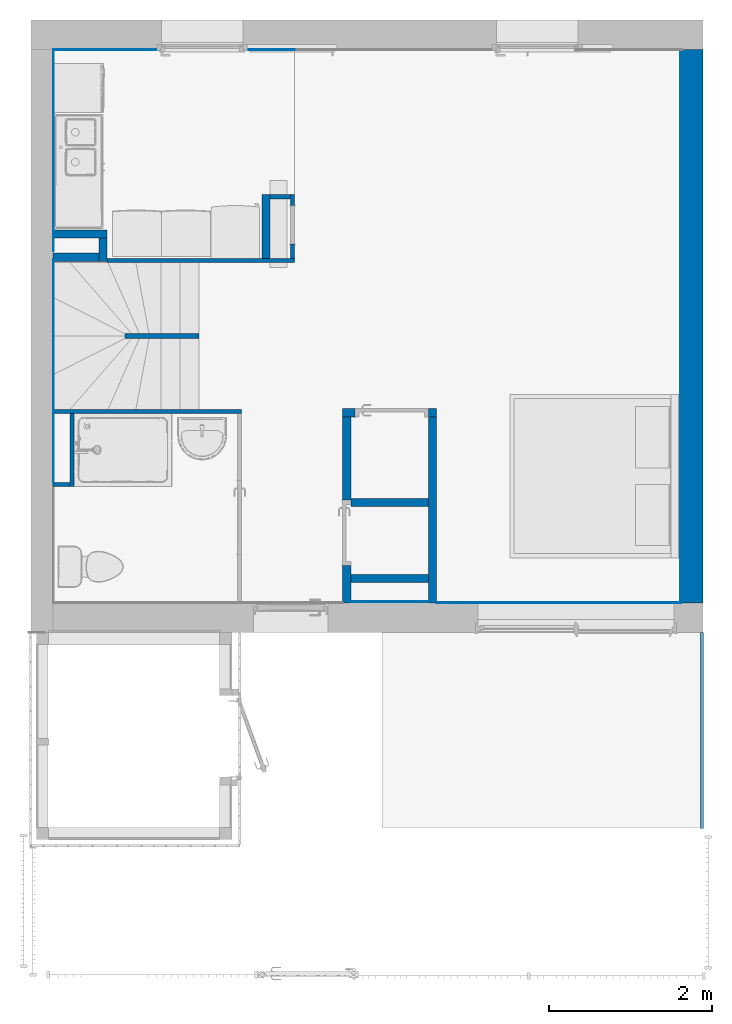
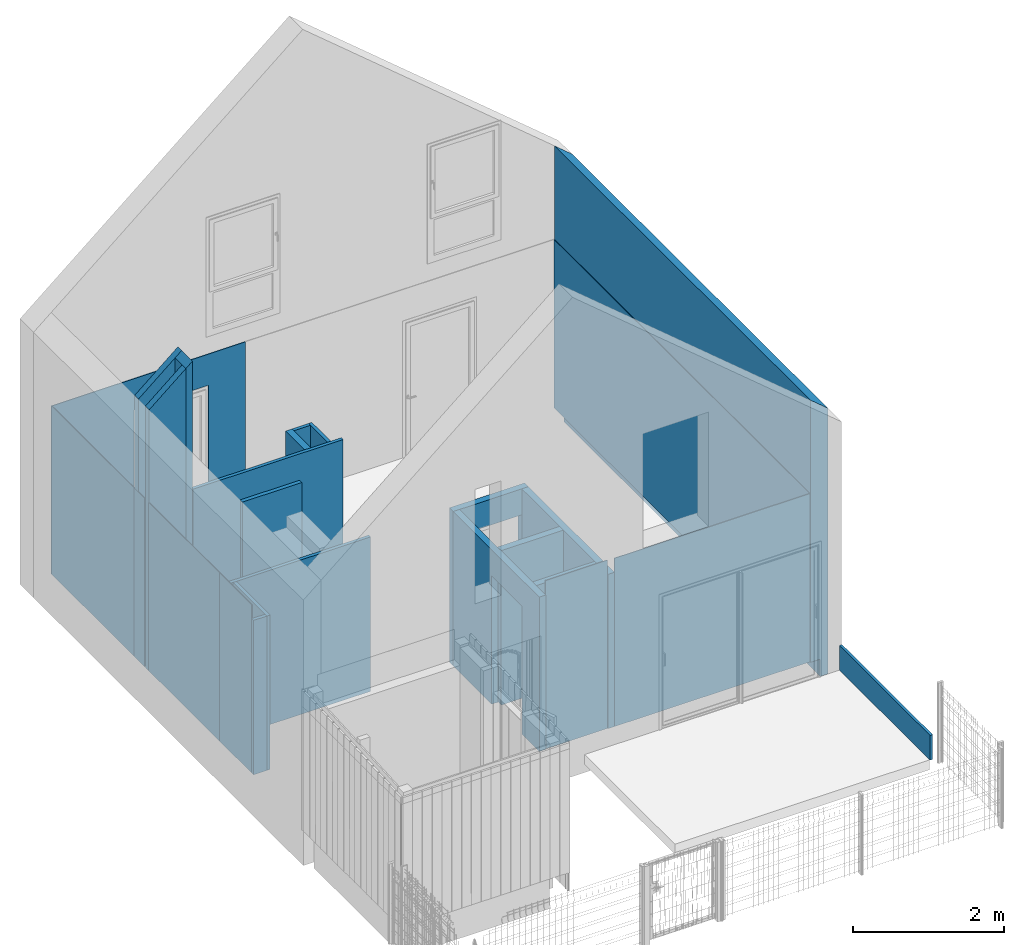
# One storey, part 68 of 81: 26 walls, 4 openings.
"""IFC2X3 building model written with IfcOpenShell, lengths in metres."""

from ifc_helpers import new_model, entity, si_unit, converted_unit, derived_unit, direction, frame, frame_2d, origin, place, context, subcontext, project, spatial, polyline, rectangle, extrude, clip, bounded_halfspace, material, layer, layer_set, layer_usage, type_object, element, save


model = new_model("IFC2X3")

# Units and contexts
model_context = context("Model", 3, precision=1e-05, world=origin(), true_north=direction((6.12303176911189e-17, 1.0)))
body_context = subcontext(model_context, "Body", "Model", "MODEL_VIEW")
ifc_project = project(units=[si_unit("LENGTHUNIT", "METRE"), si_unit("AREAUNIT", "SQUARE_METRE"), si_unit("VOLUMEUNIT", "CUBIC_METRE"), converted_unit("PLANEANGLEUNIT", "DEGREE", entity("IfcRatioMeasure", 0.0174532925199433), si_unit("PLANEANGLEUNIT", "RADIAN"), dimensions=[0, 0, 0, 0, 0, 0, 0]), si_unit("MASSUNIT", "GRAM", prefix="KILO"), derived_unit("MASSDENSITYUNIT", [(si_unit("MASSUNIT", "GRAM", prefix="KILO"), 1), (si_unit("LENGTHUNIT", "METRE"), -3)]), derived_unit("MOMENTOFINERTIAUNIT", [(si_unit("LENGTHUNIT", "METRE"), 4)]), si_unit("TIMEUNIT", "SECOND"), si_unit("FREQUENCYUNIT", "HERTZ"), si_unit("THERMODYNAMICTEMPERATUREUNIT", "DEGREE_CELSIUS"), derived_unit("THERMALTRANSMITTANCEUNIT", [(si_unit("MASSUNIT", "GRAM", prefix="KILO"), 1), (si_unit("THERMODYNAMICTEMPERATUREUNIT", "KELVIN"), -1), (si_unit("TIMEUNIT", "SECOND"), -3)]), derived_unit("VOLUMETRICFLOWRATEUNIT", [(si_unit("LENGTHUNIT", "METRE"), 3), (si_unit("TIMEUNIT", "SECOND"), -1)]), si_unit("ELECTRICCURRENTUNIT", "AMPERE"), si_unit("ELECTRICVOLTAGEUNIT", "VOLT"), si_unit("POWERUNIT", "WATT"), si_unit("FORCEUNIT", "NEWTON", prefix="KILO"), si_unit("ILLUMINANCEUNIT", "LUX"), si_unit("LUMINOUSFLUXUNIT", "LUMEN"), si_unit("LUMINOUSINTENSITYUNIT", "CANDELA"), derived_unit("USERDEFINED", [(si_unit("MASSUNIT", "GRAM", prefix="KILO"), -1), (si_unit("LENGTHUNIT", "METRE"), -2), (si_unit("TIMEUNIT", "SECOND"), 3), (si_unit("LUMINOUSFLUXUNIT", "LUMEN"), 1)]), derived_unit("LINEARVELOCITYUNIT", [(si_unit("LENGTHUNIT", "METRE"), 1), (si_unit("TIMEUNIT", "SECOND"), -1)]), si_unit("PRESSUREUNIT", "PASCAL"), derived_unit("USERDEFINED", [(si_unit("LENGTHUNIT", "METRE"), -2), (si_unit("MASSUNIT", "GRAM", prefix="KILO"), 1), (si_unit("TIMEUNIT", "SECOND"), -2)]), derived_unit("LINEARFORCEUNIT", [(si_unit("MASSUNIT", "GRAM", prefix="KILO"), 1), (si_unit("LENGTHUNIT", "METRE"), 1), (si_unit("TIMEUNIT", "SECOND"), -2), (si_unit("LENGTHUNIT", "METRE"), -1)]), derived_unit("PLANARFORCEUNIT", [(si_unit("MASSUNIT", "GRAM", prefix="KILO"), 1), (si_unit("LENGTHUNIT", "METRE"), 1), (si_unit("TIMEUNIT", "SECOND"), -2), (si_unit("LENGTHUNIT", "METRE"), -2)])], contexts=[model_context])

# Site, building, storey
site_placement = place(None, origin())
site = spatial("IfcSite", under=ifc_project, at=site_placement, Name="Surface", CompositionType="ELEMENT")
building_placement = place(site_placement, origin())
building = spatial("IfcBuilding", under=site, at=building_placement, CompositionType="ELEMENT")
storey_placement = place(building_placement, origin())
storey = spatial("IfcBuildingStorey", under=building, at=storey_placement, Name="01 RDC", CompositionType="ELEMENT", Elevation=-1.94916083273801e-14)

# Walls
ifc_material_1 = material(Name="Maçonnerie - Enduit Blanc")
ifc_layer_1 = layer(ifc_material_1, 0.02)
ifc_material_2 = material(Name="Blocs béton manufacturés")
ifc_layer_2 = layer(ifc_material_2, 0.2)
ifc_material_3 = material(Name="Maçonnerie - Isolant")
ifc_layer_3 = layer(ifc_material_3, 0.04)
ifc_material_4 = material(Name="Placoplâtre de gypse")
ifc_layer_4 = layer(ifc_material_4, 0.01)
ifc_layer_set_1 = layer_set([ifc_layer_1, ifc_layer_2, ifc_layer_3, ifc_layer_4], Name="Mur de base:Ext. Parpaing 20 + Isolant 5 + BA10")
ifc_layer_usage_1 = layer_usage(ifc_layer_set_1, "AXIS2", "NEGATIVE", 0.135)
wall_type_1 = type_object("IfcWallType", Name="Mur de base:Ext. Parpaing 20 + Isolant 5 + BA10", PredefinedType="STANDARD", material=ifc_layer_set_1)
wall_1_placement = place(storey_placement, frame((13.5615615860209, 3.44303904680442, -0.29), z_axis=(0.0, 0.0, 1.0), x_axis=(0.0, -1.0, 0.0)))
element("IfcWallStandardCase", 1, at=wall_1_placement, inside=storey, type_object=wall_type_1, material=ifc_layer_usage_1, Name="Mur de base:Ext. Parpaing 20 + Isolant 5 + BA10", ObjectType="Mur de base:Ext. Parpaing 20 + Isolant 5 + BA10", context=body_context, shape_type="Clipping", body=[
    clip(clip(clip(extrude(rectangle(XDim=6.779, YDim=0.269999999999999, at=frame_2d((3.3895, -3.33066907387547e-16), x_axis=(-1.0, 0.0))), origin(), (0.0, 0.0, 1.0), 4.51655690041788), bounded_halfspace(frame((0.0, -0.135000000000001, 4.51655690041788), z_axis=(0.0, 0.642787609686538, 0.766044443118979), x_axis=(-1.0, 0.0, 0.0)), False, frame((0.0, -0.135000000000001, 4.51655690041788)), polyline([(0.0, 0.0), (6.779, 0.0), (6.779, 0.269999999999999), (0.0, 0.269999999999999), (0.0, 0.0)]))), bounded_halfspace(frame((0.0, 0.0150000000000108, 0.28)), True, frame((0.0, 0.0150000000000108, 0.28)), polyline([(0.0, 0.0), (0.0, -0.150000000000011), (6.779, -0.150000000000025), (6.779, 0.0), (0.0, 0.0)]))), bounded_halfspace(frame((6.779, 0.0150000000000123, 0.28), z_axis=(0.0, 1.0, 0.0), x_axis=(0.0, 0.0, 1.0)), True, frame((6.779, 0.0150000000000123, 0.28), z_axis=(0.0, 1.0, 0.0), x_axis=(0.0, 0.0, 1.0)), polyline([(0.0, 0.0), (-0.28, 0.0), (-0.28, -6.779), (0.0, -6.779), (0.0, 0.0)]))),
])
ifc_material_5 = material(Name="Isolant - laine minérale")
ifc_layer_5 = layer(ifc_material_5, 0.1)
ifc_layer_set_2 = layer_set([ifc_layer_5], Name="Mur de base:Int. Polyester 100 mm")
ifc_layer_usage_2 = layer_usage(ifc_layer_set_2, "AXIS2", "NEGATIVE", 0.05)
wall_type_2 = type_object("IfcWallType", Name="Mur de base:Int. Polyester 100 mm", PredefinedType="STANDARD", material=ifc_layer_set_2)
wall_2_placement = place(storey_placement, frame((5.73656158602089, 1.18403904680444, 0.0)))
element("IfcWallStandardCase", 2, at=wall_2_placement, inside=storey, type_object=wall_type_2, material=ifc_layer_usage_2, Name="Mur de base:Int. Polyester 100 mm", ObjectType="Mur de base:Int. Polyester 100 mm", context=body_context, shape_type="Clipping", body=[
    clip(extrude(rectangle(XDim=0.659999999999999, YDim=0.1, at=frame_2d((0.33, -4.85722573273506e-17), x_axis=(-1.0, 0.0))), origin(), (0.0, 0.0, 1.0), 4.78036265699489), bounded_halfspace(frame((0.0, -0.05, 4.22655690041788), z_axis=(-0.642787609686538, 0.0, 0.766044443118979), x_axis=(0.0, -1.0, 0.0)), False, frame((0.0, -0.05, 4.22655690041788)), polyline([(0.0, 0.0), (0.559999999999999, 0.0), (0.659999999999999, 0.0), (0.659999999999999, 0.0999999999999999), (0.0, 0.0999999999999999), (0.0, 0.0)]))),
])
ifc_layer_usage_3 = layer_usage(ifc_layer_set_2, "AXIS2", "NEGATIVE", 0.05)
wall_3_placement = place(storey_placement, frame((6.34656158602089, 1.13403904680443, 0.0), z_axis=(0.0, 0.0, 1.0), x_axis=(0.0, -1.0, 0.0)))
element("IfcWallStandardCase", 3, at=wall_3_placement, inside=storey, type_object=wall_type_2, material=ifc_layer_usage_3, Name="Mur de base:Int. Polyester 100 mm", ObjectType="Mur de base:Int. Polyester 100 mm", context=body_context, shape_type="Clipping", body=[
    clip(extrude(rectangle(XDim=0.28499999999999, YDim=0.0999999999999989, at=frame_2d((0.142499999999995, -1.80411241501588e-16), x_axis=(-1.0, 0.0))), origin(), (0.0, 0.0, 1.0), 4.78036265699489), bounded_halfspace(frame((0.0, -0.0500000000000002, 4.69645269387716), z_axis=(0.0, -0.642787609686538, 0.766044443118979), x_axis=(1.0, 0.0, 0.0)), False, frame((0.0, -0.0500000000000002, 4.69645269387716)), polyline([(0.0, 0.0), (0.18499999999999, 0.0), (0.28499999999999, 0.0), (0.28499999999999, 0.0999999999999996), (0.0, 0.1), (0.0, 0.0)]))),
])
ifc_layer_usage_4 = layer_usage(ifc_layer_set_2, "AXIS2", "NEGATIVE", 0.05)
wall_4_placement = place(storey_placement, frame((6.29656158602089, 0.899039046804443, 0.0), z_axis=(0.0, 0.0, 1.0), x_axis=(-1.0, 0.0, 0.0)))
element("IfcWallStandardCase", 4, at=wall_4_placement, inside=storey, type_object=wall_type_2, material=ifc_layer_usage_4, Name="Mur de base:Int. Polyester 100 mm", ObjectType="Mur de base:Int. Polyester 100 mm", context=body_context, shape_type="Clipping", body=[
    clip(extrude(rectangle(XDim=0.559999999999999, YDim=0.1, at=frame_2d((0.28, -5.55111512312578e-17), x_axis=(-1.0, 0.0))), origin(), (0.0, 0.0, 1.0), 4.69645269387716), bounded_halfspace(frame((0.0, -0.05, 4.69645269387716), z_axis=(0.642787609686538, 0.0, 0.766044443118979), x_axis=(0.0, 1.0, 0.0)), False, frame((0.0, -0.05, 4.69645269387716)), polyline([(0.0, 0.0), (0.559999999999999, 0.0), (0.559999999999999, 0.0999999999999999), (0.0, 0.1), (0.0, 0.0)]))),
])
ifc_layer_usage_5 = layer_usage(ifc_layer_set_2, "AXIS2", "NEGATIVE", 0.05)
wall_5_placement = place(storey_placement, frame((8.34156158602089, 1.66403904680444, 0.0), z_axis=(0.0, 0.0, 1.0), x_axis=(0.0, -1.0, 0.0)))
element("IfcWallStandardCase", 5, at=wall_5_placement, inside=storey, type_object=wall_type_2, material=ifc_layer_usage_5, Name="Mur de base:Int. Polyester 100 mm", ObjectType="Mur de base:Int. Polyester 100 mm", context=body_context, shape_type="Clipping", body=[
    clip(extrude(rectangle(XDim=0.779999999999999, YDim=0.100000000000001, at=frame_2d((0.39, 9.0205620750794e-17), x_axis=(-1.0, 0.0))), origin(), (0.0, 0.0, 1.0), 2.495), bounded_halfspace(frame((0.0, -0.05, 2.495), z_axis=(0.0, 0.0, -1.0), x_axis=(-1.0, 0.0, 0.0)), True, frame((0.0, -0.05, 2.495)), polyline([(0.0, 0.0), (0.779999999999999, 0.0), (0.779999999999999, 0.1), (0.0, 0.1), (0.0, 0.0)]))),
])

# Wall, opening
ifc_layer_usage_6 = layer_usage(ifc_layer_set_2, "AXIS2", "NEGATIVE", 0.05)
wall_6_placement = place(storey_placement, frame((10.4315615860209, -1.00596095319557, 0.0), z_axis=(0.0, 0.0, 1.0), x_axis=(-1.0, 0.0, 0.0)))
wall_6 = element("IfcWallStandardCase", 6, at=wall_6_placement, inside=storey, type_object=wall_type_2, material=ifc_layer_usage_6, Name="Mur de base:Int. Polyester 100 mm", ObjectType="Mur de base:Int. Polyester 100 mm", context=body_context, shape_type="Clipping", body=[
    clip(extrude(rectangle(XDim=1.15, YDim=0.1, at=frame_2d((0.575000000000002, -1.04083408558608e-17), x_axis=(-1.0, 0.0))), origin(), (0.0, 0.0, 1.0), 2.495), bounded_halfspace(frame((0.0, -0.05, 2.495), z_axis=(0.0, 0.0, -1.0), x_axis=(0.0, -1.0, 0.0)), True, frame((0.0, -0.05, 2.495)), polyline([(0.0, 0.0), (1.15, 0.0), (1.15, 0.0999999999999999), (1.05, 0.1), (0.100000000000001, 0.0999999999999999), (0.0, 0.1), (0.0, 0.0)]))),
])
opening_1_placement = place(wall_6_placement, frame((1.0, 0.0499999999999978, 0.0)))
element("IfcOpeningElement", 7, at=opening_1_placement, cuts=wall_6, Name="Int. Simple:PP (0.83m x 2.04m):1", ObjectType="Opening", context=body_context, shape_type="SweptSolid", body=[
    extrude(rectangle(XDim=2.075, YDim=0.9, at=frame_2d((1.0375, 0.45), x_axis=(1.0, 0.0))), frame((0.0, 0.0, 0.0), z_axis=(0.0, -1.0, 0.0), x_axis=(0.0, 0.0, 1.0)), (0.0, 0.0, 1.0), 0.1),
])

ifc_layer_usage_7 = layer_usage(ifc_layer_set_2, "AXIS2", "NEGATIVE", 0.05)
wall_7_placement = place(storey_placement, frame((9.33156158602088, -1.05596095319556, 0.0), z_axis=(0.0, 0.0, 1.0), x_axis=(0.0, -1.0, 0.0)))
wall_7 = element("IfcWallStandardCase", 8, at=wall_7_placement, inside=storey, type_object=wall_type_2, material=ifc_layer_usage_7, Name="Mur de base:Int. Polyester 100 mm", ObjectType="Mur de base:Int. Polyester 100 mm", context=body_context, shape_type="Clipping", body=[
    clip(extrude(rectangle(XDim=2.28, YDim=0.0999999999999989, at=frame_2d((1.14, -3.43475248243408e-16), x_axis=(-1.0, 0.0))), origin(), (0.0, 0.0, 1.0), 2.495), bounded_halfspace(frame((0.0, -0.050000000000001, 2.495), z_axis=(0.0, 0.0, -1.0), x_axis=(-1.0, 0.0, 0.0)), True, frame((0.0, -0.050000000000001, 2.495)), polyline([(0.0, 0.0), (2.28, 0.0), (2.28, 0.0999999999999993), (2.03, 0.1), (1.93, 0.0999999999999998), (1.1, 0.0999999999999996), (1.0, 0.0999999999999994), (0.0, 0.1), (0.0, 0.0)]))),
])
opening_2_placement = place(wall_7_placement, frame((1.82, 0.0499999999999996, 0.0)))
element("IfcOpeningElement", 9, at=opening_2_placement, cuts=wall_7, Name="Int. Simple:PP (0.73m x 2.04m):1", ObjectType="Opening", context=body_context, shape_type="SweptSolid", body=[
    extrude(rectangle(XDim=2.075, YDim=0.799999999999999, at=frame_2d((1.0375, 0.4), x_axis=(1.0, 0.0))), frame((0.0, 0.0, 0.0), z_axis=(0.0, -1.0, 0.0), x_axis=(0.0, 0.0, 1.0)), (0.0, 0.0, 1.0), 0.1),
])

# Walls
ifc_layer_usage_8 = layer_usage(ifc_layer_set_2, "AXIS2", "NEGATIVE", 0.05)
wall_8_placement = place(storey_placement, frame((9.38156158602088, -3.03596095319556, 0.0)))
element("IfcWallStandardCase", 10, at=wall_8_placement, inside=storey, type_object=wall_type_2, material=ifc_layer_usage_8, Name="Mur de base:Int. Polyester 100 mm", ObjectType="Mur de base:Int. Polyester 100 mm", context=body_context, shape_type="Clipping", body=[
    clip(extrude(rectangle(XDim=0.950000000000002, YDim=0.1, at=frame_2d((0.475000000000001, 1.38777878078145e-17), x_axis=(-1.0, 0.0))), origin(), (0.0, 0.0, 1.0), 2.495), bounded_halfspace(frame((0.0, -0.05, 2.495), z_axis=(0.0, 0.0, -1.0), x_axis=(0.0, 1.0, 0.0)), True, frame((0.0, -0.05, 2.495)), polyline([(0.0, 0.0), (0.950000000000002, 0.0), (0.950000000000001, 0.1), (0.0, 0.1), (0.0, 0.0)]))),
])
ifc_layer_usage_9 = layer_usage(ifc_layer_set_2, "AXIS2", "NEGATIVE", 0.05)
wall_9_placement = place(storey_placement, frame((9.38156158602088, -2.10596095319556, 0.0)))
element("IfcWallStandardCase", 11, at=wall_9_placement, inside=storey, type_object=wall_type_2, material=ifc_layer_usage_9, Name="Mur de base:Int. Polyester 100 mm", ObjectType="Mur de base:Int. Polyester 100 mm", context=body_context, shape_type="Clipping", body=[
    clip(extrude(rectangle(XDim=0.950000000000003, YDim=0.1, at=frame_2d((0.475000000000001, 3.12250225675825e-17), x_axis=(-1.0, 0.0))), origin(), (0.0, 0.0, 1.0), 2.495), bounded_halfspace(frame((0.0, -0.05, 2.495), z_axis=(0.0, 0.0, -1.0), x_axis=(0.0, 1.0, 0.0)), True, frame((0.0, -0.05, 2.495)), polyline([(0.0, 0.0), (0.950000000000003, 0.0), (0.950000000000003, 0.1), (0.0, 0.1), (0.0, 0.0)]))),
])
ifc_layer_usage_10 = layer_usage(ifc_layer_set_2, "AXIS2", "NEGATIVE", 0.05)
wall_10_placement = place(storey_placement, frame((10.3815615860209, -3.33596095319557, 0.0), z_axis=(0.0, 0.0, 1.0), x_axis=(0.0, 1.0, 0.0)))
element("IfcWallStandardCase", 12, at=wall_10_placement, inside=storey, type_object=wall_type_2, material=ifc_layer_usage_10, Name="Mur de base:Int. Polyester 100 mm", ObjectType="Mur de base:Int. Polyester 100 mm", context=body_context, shape_type="Clipping", body=[
    clip(extrude(rectangle(XDim=2.28, YDim=0.0999999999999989, at=frame_2d((1.14, -3.33066907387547e-16), x_axis=(-1.0, 0.0))), origin(), (0.0, 0.0, 1.0), 2.495), bounded_halfspace(frame((0.0, -0.0500000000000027, 2.495), z_axis=(0.0, 0.0, -1.0), x_axis=(1.0, 0.0, 0.0)), True, frame((0.0, -0.0500000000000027, 2.495)), polyline([(0.0, 0.0), (2.28, 0.0), (2.28, 0.1), (1.28, 0.100000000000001), (1.18, 0.100000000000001), (0.35, 0.100000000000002), (0.25, 0.100000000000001), (0.0, 0.100000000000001), (0.0, 0.0)]))),
])
ifc_material_6 = material(Name="Mur par défaut")
ifc_layer_6 = layer(ifc_material_6, 0.05)
ifc_layer_set_3 = layer_set([ifc_layer_6], Name="Mur de base:Int. Plâtre 50 mm")
ifc_layer_usage_11 = layer_usage(ifc_layer_set_3, "AXIS2", "NEGATIVE", 0.025)
wall_type_3 = type_object("IfcWallType", Name="Mur de base:Int. Plâtre 50 mm", PredefinedType="STANDARD", material=ifc_layer_set_3)
wall_11_placement = place(storey_placement, frame((6.39656158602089, 0.859039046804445, 0.0)))
element("IfcWallStandardCase", 13, at=wall_11_placement, inside=storey, type_object=wall_type_3, material=ifc_layer_usage_11, Name="Mur de base:Int. Plâtre 50 mm", ObjectType="Mur de base:Int. Plâtre 50 mm", context=body_context, shape_type="SweptSolid", body=[
    extrude(rectangle(XDim=2.295, YDim=0.05, at=frame_2d((1.1475, -2.94902990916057e-17), x_axis=(-1.0, 0.0))), origin(), (0.0, 0.0, 1.0), 2.72000000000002),
])

# Wall, opening
ifc_layer_usage_12 = layer_usage(ifc_layer_set_3, "AXIS2", "NEGATIVE", 0.025)
wall_12_placement = place(storey_placement, frame((8.66656158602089, 0.884039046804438, 0.0), z_axis=(0.0, 0.0, 1.0), x_axis=(0.0, 1.0, 0.0)))
wall_12 = element("IfcWallStandardCase", 14, at=wall_12_placement, inside=storey, type_object=wall_type_3, material=ifc_layer_usage_12, Name="Mur de base:Int. Plâtre 50 mm", ObjectType="Mur de base:Int. Plâtre 50 mm", context=body_context, shape_type="Clipping", body=[
    clip(extrude(rectangle(XDim=0.78, YDim=0.0499999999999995, at=frame_2d((0.39, 9.8879238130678e-17), x_axis=(-1.0, 0.0))), origin(), (0.0, 0.0, 1.0), 2.495), bounded_halfspace(frame((0.0, -0.0250000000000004, 2.495), z_axis=(0.0, 0.0, -1.0), x_axis=(1.0, 0.0, 0.0)), True, frame((0.0, -0.0250000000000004, 2.495)), polyline([(0.0, 0.0), (0.78, 0.0), (0.78, 0.0500000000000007), (0.73, 0.0500000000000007), (0.0, 0.0500000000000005), (0.0, 0.0)]))),
])
opening_3_placement = place(wall_12_placement, frame((0.64499999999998, 0.0250000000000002, 0.69999999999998)))
element("IfcOpeningElement", 15, at=opening_3_placement, cuts=wall_12, Name="Int. Simple:PP (0.60 m x 0.8 m):1", ObjectType="Opening", context=body_context, shape_type="SweptSolid", body=[
    extrude(rectangle(XDim=0.835000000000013, YDim=0.469999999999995, at=frame_2d((0.417500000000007, 0.234999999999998), x_axis=(1.0, 0.0))), frame((0.0, 0.0, 0.0), z_axis=(0.0, -1.0, 0.0), x_axis=(0.0, 0.0, 1.0)), (0.0, 0.0, 1.0), 0.05),
])

# Walls
ifc_layer_usage_13 = layer_usage(ifc_layer_set_3, "AXIS2", "NEGATIVE", 0.025)
wall_13_placement = place(storey_placement, frame((8.64156158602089, 1.63903904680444, 0.0), z_axis=(0.0, 0.0, 1.0), x_axis=(-1.0, 0.0, 0.0)))
element("IfcWallStandardCase", 16, at=wall_13_placement, inside=storey, type_object=wall_type_3, material=ifc_layer_usage_13, Name="Mur de base:Int. Plâtre 50 mm", ObjectType="Mur de base:Int. Plâtre 50 mm", context=body_context, shape_type="Clipping", body=[
    clip(extrude(rectangle(XDim=0.250000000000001, YDim=0.05, at=frame_2d((0.125, 0.0), x_axis=(-1.0, 0.0))), origin(), (0.0, 0.0, 1.0), 2.495), bounded_halfspace(frame((0.0, -0.025, 2.495), z_axis=(0.0, 0.0, -1.0), x_axis=(0.0, -1.0, 0.0)), True, frame((0.0, -0.025, 2.495)), polyline([(0.0, 0.0), (0.250000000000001, 0.0), (0.250000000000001, 0.05), (0.0, 0.05), (0.0, 0.0)]))),
])
ifc_layer_usage_14 = layer_usage(ifc_layer_set_3, "AXIS2", "NEGATIVE", 0.025)
wall_14_placement = place(storey_placement, frame((5.96656158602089, -1.01596095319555, 0.0), z_axis=(0.0, 0.0, 1.0), x_axis=(0.0, -1.0, 0.0)))
element("IfcWallStandardCase", 17, at=wall_14_placement, inside=storey, type_object=wall_type_3, material=ifc_layer_usage_14, Name="Mur de base:Int. Plâtre 50 mm", ObjectType="Mur de base:Int. Plâtre 50 mm", context=body_context, shape_type="Clipping", body=[
    clip(extrude(rectangle(XDim=0.895, YDim=0.0499999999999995, at=frame_2d((0.4475, 2.67147415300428e-16), x_axis=(-1.0, 0.0))), origin(), (0.0, 0.0, 1.0), 2.495), bounded_halfspace(frame((0.0, -0.0250000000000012, 2.495), z_axis=(0.0, 0.0, -1.0), x_axis=(-1.0, 0.0, 0.0)), True, frame((0.0, -0.0250000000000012, 2.495)), polyline([(0.0, 0.0), (0.845, 0.0), (0.895, 0.0), (0.895, 0.0500000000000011), (0.0, 0.0500000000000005), (0.0, 0.0)]))),
])
ifc_layer_usage_15 = layer_usage(ifc_layer_set_3, "AXIS2", "NEGATIVE", 0.025)
wall_15_placement = place(storey_placement, frame((5.94156158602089, -1.88596095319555, 0.0), z_axis=(0.0, 0.0, 1.0), x_axis=(-1.0, 0.0, 0.0)))
element("IfcWallStandardCase", 18, at=wall_15_placement, inside=storey, type_object=wall_type_3, material=ifc_layer_usage_15, Name="Mur de base:Int. Plâtre 50 mm", ObjectType="Mur de base:Int. Plâtre 50 mm", context=body_context, shape_type="Clipping", body=[
    clip(extrude(rectangle(XDim=0.205000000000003, YDim=0.05, at=frame_2d((0.102500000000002, -2.94902990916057e-17), x_axis=(-1.0, 0.0))), origin(), (0.0, 0.0, 1.0), 2.495), bounded_halfspace(frame((0.0, -0.025, 2.495), z_axis=(0.0, 0.0, -1.0), x_axis=(0.0, -1.0, 0.0)), True, frame((0.0, -0.025, 2.495)), polyline([(0.0, 0.0), (0.195000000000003, 0.0), (0.205000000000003, 0.0), (0.205000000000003, 0.025), (0.205000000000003, 0.05), (0.195000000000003, 0.05), (0.0, 0.05), (0.0, 0.0)]))),
])
ifc_layer_usage_16 = layer_usage(ifc_layer_set_3, "AXIS2", "NEGATIVE", 0.025)
wall_16_placement = place(storey_placement, frame((5.74656158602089, -0.990960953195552, 0.0)))
element("IfcWallStandardCase", 19, at=wall_16_placement, inside=storey, type_object=wall_type_3, material=ifc_layer_usage_16, Name="Mur de base:Int. Plâtre 50 mm", ObjectType="Mur de base:Int. Plâtre 50 mm", context=body_context, shape_type="Clipping", body=[
    clip(extrude(rectangle(XDim=2.29500000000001, YDim=0.05, at=frame_2d((1.1475, 1.90819582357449e-17), x_axis=(-1.0, 0.0))), origin(), (0.0, 0.0, 1.0), 2.495), bounded_halfspace(frame((0.0, -0.025, 2.495), z_axis=(0.0, 0.0, -1.0), x_axis=(0.0, 1.0, 0.0)), True, frame((0.0, -0.025, 2.495)), polyline([(0.0, 0.0), (0.195000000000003, 0.0), (0.245000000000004, 0.0), (2.24500000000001, 0.0), (2.29500000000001, 0.0), (2.29500000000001, 0.0500000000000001), (1.79, 0.0500000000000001), (0.0, 0.05), (0.0, 0.025), (0.0, 0.0)]))),
])
ifc_layer_7 = layer(ifc_material_6, 0.06)
ifc_layer_set_4 = layer_set([ifc_layer_7], Name="Mur de base:Int. Plâtre 60 mm")
ifc_layer_usage_17 = layer_usage(ifc_layer_set_4, "AXIS2", "NEGATIVE", 0.03)
wall_type_4 = type_object("IfcWallType", Name="Mur de base:Int. Plâtre 60 mm", PredefinedType="STANDARD", material=ifc_layer_set_4)
wall_17_placement = place(storey_placement, frame((6.61656158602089, -0.0670286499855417, 0.0)))
element("IfcWallStandardCase", 20, at=wall_17_placement, inside=storey, type_object=wall_type_4, material=ifc_layer_usage_17, Name="Mur de base:Int. Plâtre 60 mm", ObjectType="Mur de base:Int. Plâtre 60 mm", context=body_context, shape_type="SweptSolid", body=[
    extrude(rectangle(XDim=0.905, YDim=0.06, at=frame_2d((0.4525, -5.20417042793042e-18), x_axis=(-1.0, 0.0))), origin(), (0.0, 0.0, 1.0), 3.0),
])

# Wall, opening
ifc_layer_8 = layer(ifc_material_4, 0.01)
ifc_layer_set_5 = layer_set([ifc_layer_8], Name="Mur de base:Int. Plâtre 10 mm")
ifc_layer_usage_18 = layer_usage(ifc_layer_set_5, "AXIS2", "POSITIVE", -0.005)
wall_type_5 = type_object("IfcWallType", Name="Mur de base:Int. Plâtre 10 mm", PredefinedType="STANDARD", material=ifc_layer_set_5)
wall_18_placement = place(storey_placement, frame((5.7365615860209, 3.43903904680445, 0.0)))
wall_18 = element("IfcWallStandardCase", 21, at=wall_18_placement, inside=storey, type_object=wall_type_5, material=ifc_layer_usage_18, Name="Mur de base:Int. Plâtre 10 mm", ObjectType="Mur de base:Int. Plâtre 10 mm", context=body_context, shape_type="SweptSolid", body=[
    extrude(rectangle(XDim=2.96, YDim=0.00999999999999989, at=frame_2d((1.48, 1.95590071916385e-16), x_axis=(-1.0, 0.0))), origin(), (0.0, 0.0, 1.0), 2.72000000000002),
])
opening_4_placement = place(wall_18_placement, origin())
element("IfcOpeningElement", 22, at=opening_4_placement, cuts=wall_18, Name="Mur de base:Int. Plâtre 10 mm", ObjectType="Opening", context=body_context, shape_type="SweptSolid", body=[
    extrude(rectangle(XDim=2.23516899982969, YDim=1.13332726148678, at=frame_2d((0.0, -5.55111512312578e-16), x_axis=(1.0, 0.0))), frame((1.82866363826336, -0.00499999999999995, 1.09750127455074), z_axis=(0.0, 1.0, 0.0), x_axis=(0.0, 0.0, -1.0)), (0.0, 0.0, 1.0), 0.00999999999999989),
])

# Walls
ifc_layer_usage_19 = layer_usage(ifc_layer_set_5, "AXIS2", "POSITIVE", -0.005)
wall_19_placement = place(storey_placement, frame((13.4215615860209, 3.43403904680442, 0.0), z_axis=(0.0, 0.0, 1.0), x_axis=(0.0, -1.0, 0.0)))
element("IfcWallStandardCase", 23, at=wall_19_placement, inside=storey, type_object=wall_type_5, material=ifc_layer_usage_19, Name="Mur de base:Int. Plâtre 10 mm", ObjectType="Mur de base:Int. Plâtre 10 mm", context=body_context, shape_type="SweptSolid", body=[
    extrude(rectangle(XDim=6.77, YDim=0.0100000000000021, at=frame_2d((3.385, -5.11743425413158e-17), x_axis=(-1.0, 0.0))), origin(), (0.0, 0.0, 1.0), 2.72000000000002),
])
ifc_layer_usage_20 = layer_usage(ifc_layer_set_5, "AXIS2", "POSITIVE", -0.005)
wall_20_placement = place(storey_placement, frame((13.4165615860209, -3.33096095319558, 0.0), z_axis=(0.0, 0.0, 1.0), x_axis=(-1.0, 0.0, 0.0)))
element("IfcWallStandardCase", 24, at=wall_20_placement, inside=storey, type_object=wall_type_5, material=ifc_layer_usage_20, Name="Mur de base:Int. Plâtre 10 mm", ObjectType="Mur de base:Int. Plâtre 10 mm", context=body_context, shape_type="SweptSolid", body=[
    extrude(rectangle(XDim=2.98500000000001, YDim=0.00999999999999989, at=frame_2d((1.4925, -4.0766001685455e-17), x_axis=(-1.0, 0.0))), origin(), (0.0, 0.0, 1.0), 2.72000000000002),
])
ifc_layer_usage_21 = layer_usage(ifc_layer_set_5, "AXIS2", "POSITIVE", -0.005)
wall_21_placement = place(storey_placement, frame((5.74156158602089, 0.969039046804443, 0.0), z_axis=(0.0, 0.0, 1.0), x_axis=(0.0, 1.0, 0.0)))
element("IfcWallStandardCase", 25, at=wall_21_placement, inside=storey, type_object=wall_type_5, material=ifc_layer_usage_21, Name="Mur de base:Int. Plâtre 10 mm", ObjectType="Mur de base:Int. Plâtre 10 mm", context=body_context, shape_type="SweptSolid", body=[
    extrude(rectangle(XDim=0.29, YDim=0.00999999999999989, at=frame_2d((0.145, 0.0), x_axis=(-1.0, 0.0))), origin(), (0.0, 0.0, 1.0), 2.72000000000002),
])
ifc_layer_usage_22 = layer_usage(ifc_layer_set_5, "AXIS2", "POSITIVE", -0.005)
wall_22_placement = place(storey_placement, frame((10.3315615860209, -3.32096095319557, 0.0), z_axis=(0.0, 0.0, 1.0), x_axis=(-1.0, 0.0, 0.0)))
element("IfcWallStandardCase", 26, at=wall_22_placement, inside=storey, type_object=wall_type_5, material=ifc_layer_usage_22, Name="Mur de base:Int. Plâtre 10 mm", ObjectType="Mur de base:Int. Plâtre 10 mm", context=body_context, shape_type="SweptSolid", body=[
    extrude(rectangle(XDim=0.950000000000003, YDim=0.00999999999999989, at=frame_2d((0.475000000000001, 1.97324795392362e-16), x_axis=(-1.0, 0.0))), origin(), (0.0, 0.0, 1.0), 2.72000000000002),
])
ifc_layer_usage_23 = layer_usage(ifc_layer_set_5, "AXIS2", "POSITIVE", -0.005)
wall_23_placement = place(storey_placement, frame((5.74156158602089, 1.23403904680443, 0.0), z_axis=(0.0, 0.0, 1.0), x_axis=(0.0, 1.0, 0.0)))
element("IfcWallStandardCase", 27, at=wall_23_placement, inside=storey, type_object=wall_type_5, material=ifc_layer_usage_23, Name="Mur de base:Int. Plâtre 10 mm", ObjectType="Mur de base:Int. Plâtre 10 mm", context=body_context, shape_type="SweptSolid", body=[
    extrude(rectangle(XDim=2.20000000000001, YDim=0.00999999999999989, at=frame_2d((1.10000000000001, 2.08166817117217e-16), x_axis=(-1.0, 0.0))), origin(), (0.0, 0.0, 1.0), 2.72000000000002),
])
ifc_layer_usage_24 = layer_usage(ifc_layer_set_5, "AXIS2", "POSITIVE", -0.005)
wall_24_placement = place(storey_placement, frame((5.74156158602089, -1.01596095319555, 0.0), z_axis=(0.0, 0.0, 1.0), x_axis=(0.0, 1.0, 0.0)))
element("IfcWallStandardCase", 28, at=wall_24_placement, inside=storey, type_object=wall_type_5, material=ifc_layer_usage_24, Name="Mur de base:Int. Plâtre 10 mm", ObjectType="Mur de base:Int. Plâtre 10 mm", context=body_context, shape_type="SweptSolid", body=[
    extrude(rectangle(XDim=1.88999999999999, YDim=0.00999999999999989, at=frame_2d((0.944999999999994, -1.56992474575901e-16), x_axis=(-1.0, 0.0))), origin(), (0.0, 0.0, 1.0), 2.72000000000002),
])
ifc_layer_usage_25 = layer_usage(ifc_layer_set_5, "AXIS2", "POSITIVE", -0.005)
wall_25_placement = place(storey_placement, frame((5.74156158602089, -1.88596095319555, 0.0), z_axis=(0.0, 0.0, 1.0), x_axis=(0.0, 1.0, 0.0)))
element("IfcWallStandardCase", 29, at=wall_25_placement, inside=storey, type_object=wall_type_5, material=ifc_layer_usage_25, Name="Mur de base:Int. Plâtre 10 mm", ObjectType="Mur de base:Int. Plâtre 10 mm", context=body_context, shape_type="SweptSolid", body=[
    extrude(rectangle(XDim=0.845, YDim=0.00999999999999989, at=frame_2d((0.4475, 1.53523027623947e-16), x_axis=(-1.0, 0.0))), origin(), (0.0, 0.0, 1.0), 2.72000000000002),
])
ifc_material_7 = material(Name="Brique, commune")
ifc_layer_9 = layer(ifc_material_7, 0.04)
ifc_layer_set_6 = layer_set([ifc_layer_9], Name="Mur de base:Ext. Brique 4")
ifc_layer_usage_26 = layer_usage(ifc_layer_set_6, "AXIS2", "POSITIVE", -0.02)
wall_type_6 = type_object("IfcWallType", Name="Mur de base:Ext. Brique 4", PredefinedType="STANDARD", material=ifc_layer_set_6)
wall_26_placement = place(storey_placement, frame((13.6815615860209, -3.69596095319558, 0.0), z_axis=(0.0, 0.0, 1.0), x_axis=(0.0, -1.0, 0.0)))
element("IfcWallStandardCase", 30, at=wall_26_placement, inside=storey, type_object=wall_type_6, material=ifc_layer_usage_26, Name="Mur de base:Ext. Brique 4", ObjectType="Mur de base:Ext. Brique 4", context=body_context, shape_type="SweptSolid", body=[
    extrude(rectangle(XDim=2.4, YDim=0.0399999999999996, at=frame_2d((1.2, 6.93889390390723e-18), x_axis=(-1.0, 0.0))), origin(), (0.0, 0.0, 1.0), 0.4),
])

save(model, "model.ifc")
